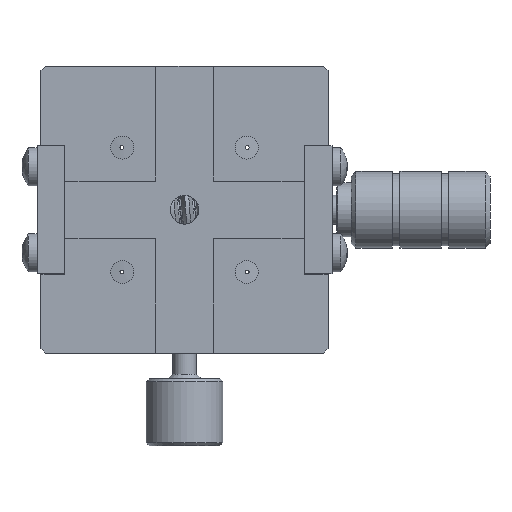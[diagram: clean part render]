
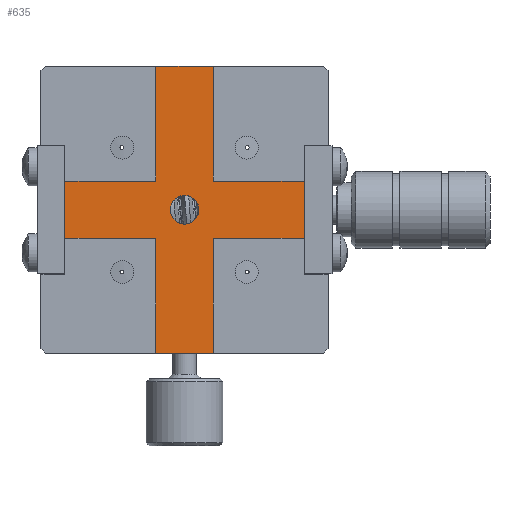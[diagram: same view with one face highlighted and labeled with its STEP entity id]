
A CAD part, front view. The second image highlights one B-rep face of the part: STEP entity #635.
In plain terms, the highlighted planar face has unit normal (0, -1, 0).
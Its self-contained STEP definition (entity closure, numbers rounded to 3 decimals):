
#102 = CARTESIAN_POINT ( 'NONE',  ( 23.022, 38.174, 34.097 ) ) ;
#358 = VERTEX_POINT ( 'NONE', #4928 ) ;
#360 = CARTESIAN_POINT ( 'NONE',  ( 26.022, 38.174, 37.097 ) ) ;
#385 = DIRECTION ( 'NONE',  ( 1., 0., 0. ) ) ;
#498 = ORIENTED_EDGE ( 'NONE', *, *, #11482, .F. ) ;
#635 = ADVANCED_FACE ( 'NONE', ( #9867, #12085 ), #16138, .T. ) ;
#749 = EDGE_CURVE ( 'NONE', #16568, #16568, #11505, .T. ) ;
#1135 = CARTESIAN_POINT ( 'NONE',  ( 20.022, 38.174, 49.097 ) ) ;
#1255 = CARTESIAN_POINT ( 'NONE',  ( 23.022, 38.174, 31.097 ) ) ;
#1298 = LINE ( 'NONE', #19397, #2118 ) ;
#1423 = EDGE_CURVE ( 'NONE', #9556, #18715, #16442, .T. ) ;
#1447 = VERTEX_POINT ( 'NONE', #7292 ) ;
#2084 = ORIENTED_EDGE ( 'NONE', *, *, #20786, .F. ) ;
#2118 = VECTOR ( 'NONE', #19529, 1000. ) ;
#2158 = CARTESIAN_POINT ( 'NONE',  ( 35.522, 38.174, 37.097 ) ) ;
#3030 = ORIENTED_EDGE ( 'NONE', *, *, #3808, .T. ) ;
#3327 = LINE ( 'NONE', #1255, #20271 ) ;
#3426 = DIRECTION ( 'NONE',  ( 0., 0., 1. ) ) ;
#3808 = EDGE_CURVE ( 'NONE', #6834, #358, #25619, .T. ) ;
#3864 = LINE ( 'NONE', #15733, #10623 ) ;
#4268 = LINE ( 'NONE', #13941, #6208 ) ;
#4340 = CARTESIAN_POINT ( 'NONE',  ( 35.522, 38.174, 29.347 ) ) ;
#4928 = CARTESIAN_POINT ( 'NONE',  ( 26.022, 38.174, 49.097 ) ) ;
#5329 = LINE ( 'NONE', #18769, #7025 ) ;
#5563 = CARTESIAN_POINT ( 'NONE',  ( 20.022, 38.174, 19.097 ) ) ;
#6208 = VECTOR ( 'NONE', #385, 1000. ) ;
#6643 = VECTOR ( 'NONE', #25307, 1000. ) ;
#6726 = ORIENTED_EDGE ( 'NONE', *, *, #17025, .T. ) ;
#6834 = VERTEX_POINT ( 'NONE', #360 ) ;
#6849 = DIRECTION ( 'NONE',  ( 1., 0., 0. ) ) ;
#6986 = VECTOR ( 'NONE', #14486, 1000. ) ;
#7025 = VECTOR ( 'NONE', #11327, 1000. ) ;
#7049 = EDGE_CURVE ( 'NONE', #24248, #19144, #3327, .T. ) ;
#7292 = CARTESIAN_POINT ( 'NONE',  ( 10.522, 38.174, 31.097 ) ) ;
#7451 = DIRECTION ( 'NONE',  ( -1., 0., 0. ) ) ;
#7541 = EDGE_CURVE ( 'NONE', #16227, #23806, #9794, .T. ) ;
#7963 = LINE ( 'NONE', #13964, #18317 ) ;
#8471 = VERTEX_POINT ( 'NONE', #2158 ) ;
#8722 = VECTOR ( 'NONE', #15423, 1000. ) ;
#9524 = AXIS2_PLACEMENT_3D ( 'NONE', #102, #25638, #13922 ) ;
#9556 = VERTEX_POINT ( 'NONE', #5563 ) ;
#9771 = CARTESIAN_POINT ( 'NONE',  ( 20.022, 38.174, 31.097 ) ) ;
#9794 = LINE ( 'NONE', #15810, #21117 ) ;
#9867 = FACE_BOUND ( 'NONE', #25249, .T. ) ;
#10039 = ORIENTED_EDGE ( 'NONE', *, *, #1423, .F. ) ;
#10126 = CARTESIAN_POINT ( 'NONE',  ( 23.022, 38.174, 34.097 ) ) ;
#10623 = VECTOR ( 'NONE', #21589, 1000. ) ;
#10799 = VECTOR ( 'NONE', #18809, 1000. ) ;
#11187 = VERTEX_POINT ( 'NONE', #14069 ) ;
#11294 = ORIENTED_EDGE ( 'NONE', *, *, #23436, .T. ) ;
#11327 = DIRECTION ( 'NONE',  ( 1., 0., 0. ) ) ;
#11402 = CARTESIAN_POINT ( 'NONE',  ( 35.522, 38.174, 31.097 ) ) ;
#11482 = EDGE_CURVE ( 'NONE', #1447, #11187, #3864, .T. ) ;
#11505 = CIRCLE ( 'NONE', #23583, 1.5 ) ;
#12085 = FACE_OUTER_BOUND ( 'NONE', #21411, .T. ) ;
#12420 = LINE ( 'NONE', #4340, #10799 ) ;
#13143 = ORIENTED_EDGE ( 'NONE', *, *, #7541, .F. ) ;
#13398 = ORIENTED_EDGE ( 'NONE', *, *, #7049, .T. ) ;
#13576 = CARTESIAN_POINT ( 'NONE',  ( 23.022, 38.174, 37.097 ) ) ;
#13922 = DIRECTION ( 'NONE',  ( 1., 0., 0. ) ) ;
#13941 = CARTESIAN_POINT ( 'NONE',  ( 83.022, 38.174, 19.097 ) ) ;
#13964 = CARTESIAN_POINT ( 'NONE',  ( 75.522, 38.174, 49.097 ) ) ;
#14069 = CARTESIAN_POINT ( 'NONE',  ( 10.522, 38.174, 37.097 ) ) ;
#14417 = VECTOR ( 'NONE', #19505, 1000. ) ;
#14486 = DIRECTION ( 'NONE',  ( 0., 0., 1. ) ) ;
#14894 = ORIENTED_EDGE ( 'NONE', *, *, #749, .F. ) ;
#15423 = DIRECTION ( 'NONE',  ( 1., 0., 0. ) ) ;
#15733 = CARTESIAN_POINT ( 'NONE',  ( 10.522, 38.174, 34.097 ) ) ;
#15810 = CARTESIAN_POINT ( 'NONE',  ( 20.022, 38.174, 34.097 ) ) ;
#16138 = PLANE ( 'NONE',  #9524 ) ;
#16227 = VERTEX_POINT ( 'NONE', #16618 ) ;
#16442 = LINE ( 'NONE', #24379, #6986 ) ;
#16568 = VERTEX_POINT ( 'NONE', #20722 ) ;
#16618 = CARTESIAN_POINT ( 'NONE',  ( 20.022, 38.174, 37.097 ) ) ;
#17006 = CARTESIAN_POINT ( 'NONE',  ( 26.022, 38.174, 31.097 ) ) ;
#17025 = EDGE_CURVE ( 'NONE', #9556, #18284, #4268, .T. ) ;
#17351 = ORIENTED_EDGE ( 'NONE', *, *, #21661, .F. ) ;
#18086 = DIRECTION ( 'NONE',  ( 1., 0., 0. ) ) ;
#18284 = VERTEX_POINT ( 'NONE', #23968 ) ;
#18317 = VECTOR ( 'NONE', #7451, 1000. ) ;
#18715 = VERTEX_POINT ( 'NONE', #9771 ) ;
#18769 = CARTESIAN_POINT ( 'NONE',  ( 23.022, 38.174, 37.097 ) ) ;
#18809 = DIRECTION ( 'NONE',  ( 0., 0., -1. ) ) ;
#19144 = VERTEX_POINT ( 'NONE', #11402 ) ;
#19314 = LINE ( 'NONE', #21283, #8722 ) ;
#19397 = CARTESIAN_POINT ( 'NONE',  ( 26.022, 38.174, 34.097 ) ) ;
#19430 = EDGE_CURVE ( 'NONE', #11187, #16227, #23602, .T. ) ;
#19434 = EDGE_CURVE ( 'NONE', #358, #23806, #7963, .T. ) ;
#19505 = DIRECTION ( 'NONE',  ( 0., 0., 1. ) ) ;
#19529 = DIRECTION ( 'NONE',  ( 0., 0., 1. ) ) ;
#20271 = VECTOR ( 'NONE', #6849, 1000. ) ;
#20722 = CARTESIAN_POINT ( 'NONE',  ( 24.522, 38.174, 34.097 ) ) ;
#20786 = EDGE_CURVE ( 'NONE', #6834, #8471, #5329, .T. ) ;
#21117 = VECTOR ( 'NONE', #3426, 1000. ) ;
#21219 = ORIENTED_EDGE ( 'NONE', *, *, #19430, .F. ) ;
#21283 = CARTESIAN_POINT ( 'NONE',  ( 23.022, 38.174, 31.097 ) ) ;
#21411 = EDGE_LOOP ( 'NONE', ( #24018, #13143, #21219, #498, #21804, #10039, #6726, #11294, #13398, #17351, #2084, #3030 ) ) ;
#21589 = DIRECTION ( 'NONE',  ( 0., 0., 1. ) ) ;
#21661 = EDGE_CURVE ( 'NONE', #8471, #19144, #12420, .T. ) ;
#21804 = ORIENTED_EDGE ( 'NONE', *, *, #21840, .T. ) ;
#21840 = EDGE_CURVE ( 'NONE', #1447, #18715, #19314, .T. ) ;
#23155 = CARTESIAN_POINT ( 'NONE',  ( 26.022, 38.174, 34.097 ) ) ;
#23436 = EDGE_CURVE ( 'NONE', #18284, #24248, #1298, .T. ) ;
#23583 = AXIS2_PLACEMENT_3D ( 'NONE', #10126, #23820, #18086 ) ;
#23602 = LINE ( 'NONE', #13576, #6643 ) ;
#23806 = VERTEX_POINT ( 'NONE', #1135 ) ;
#23820 = DIRECTION ( 'NONE',  ( 0., -1., 0. ) ) ;
#23968 = CARTESIAN_POINT ( 'NONE',  ( 26.022, 38.174, 19.097 ) ) ;
#24018 = ORIENTED_EDGE ( 'NONE', *, *, #19434, .T. ) ;
#24248 = VERTEX_POINT ( 'NONE', #17006 ) ;
#24379 = CARTESIAN_POINT ( 'NONE',  ( 20.022, 38.174, 34.097 ) ) ;
#25249 = EDGE_LOOP ( 'NONE', ( #14894 ) ) ;
#25307 = DIRECTION ( 'NONE',  ( 1., 0., 0. ) ) ;
#25619 = LINE ( 'NONE', #23155, #14417 ) ;
#25638 = DIRECTION ( 'NONE',  ( 0., -1., 0. ) ) ;
